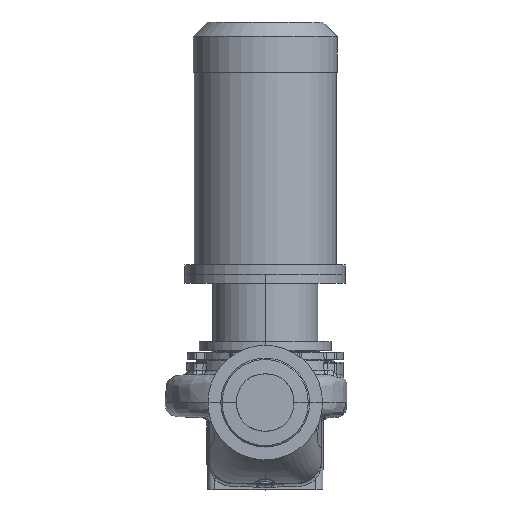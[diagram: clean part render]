
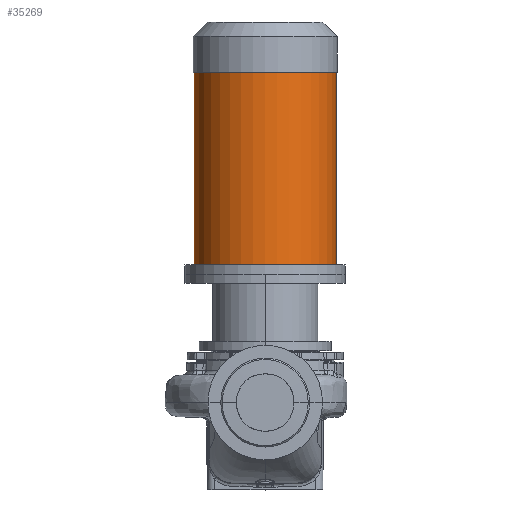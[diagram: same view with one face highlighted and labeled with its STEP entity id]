
A CAD part, top view. The second image highlights one B-rep face of the part: STEP entity #35269.
In plain terms, the highlighted cylindrical face has radius 154.5 mm (diameter 309 mm), a partial arc.
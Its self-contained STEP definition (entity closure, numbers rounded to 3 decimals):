
#1039 = CARTESIAN_POINT ( 'NONE',  ( 154.5, 720.8, 0. ) ) ;
#1347 = FACE_OUTER_BOUND ( 'NONE', #37316, .T. ) ;
#2744 = CARTESIAN_POINT ( 'NONE',  ( -154.5, 300.8, 0. ) ) ;
#3837 = VERTEX_POINT ( 'NONE', #25404 ) ;
#6369 = DIRECTION ( 'NONE',  ( 0., -1., 0. ) ) ;
#8304 = CARTESIAN_POINT ( 'NONE',  ( 154.5, 280.8, 0. ) ) ;
#9718 = DIRECTION ( 'NONE',  ( 0., -1., 0. ) ) ;
#10745 = ORIENTED_EDGE ( 'NONE', *, *, #15615, .T. ) ;
#11848 = EDGE_CURVE ( 'NONE', #43595, #41799, #28442, .T. ) ;
#14975 = VECTOR ( 'NONE', #6369, 1000. ) ;
#15615 = EDGE_CURVE ( 'NONE', #3837, #41799, #27435, .T. ) ;
#18909 = DIRECTION ( 'NONE',  ( -1., 0., 0. ) ) ;
#20067 = ORIENTED_EDGE ( 'NONE', *, *, #11848, .F. ) ;
#23610 = CARTESIAN_POINT ( 'NONE',  ( 0., 300.8, 0. ) ) ;
#24314 = CARTESIAN_POINT ( 'NONE',  ( 154.5, 300.8, 0. ) ) ;
#24753 = CYLINDRICAL_SURFACE ( 'NONE', #55922, 154.5 ) ;
#25404 = CARTESIAN_POINT ( 'NONE',  ( -154.5, 720.8, 0. ) ) ;
#27435 = LINE ( 'NONE', #48177, #14975 ) ;
#28442 = CIRCLE ( 'NONE', #56609, 154.5 ) ;
#32078 = DIRECTION ( 'NONE',  ( 0., -1., 0. ) ) ;
#32140 = EDGE_CURVE ( 'NONE', #47421, #43595, #41243, .T. ) ;
#35269 = ADVANCED_FACE ( 'NONE', ( #1347 ), #24753, .T. ) ;
#36812 = ORIENTED_EDGE ( 'NONE', *, *, #58729, .T. ) ;
#36885 = DIRECTION ( 'NONE',  ( 0., -1., 0. ) ) ;
#37316 = EDGE_LOOP ( 'NONE', ( #47051, #36812, #10745, #20067 ) ) ;
#41243 = LINE ( 'NONE', #8304, #50692 ) ;
#41580 = DIRECTION ( 'NONE',  ( -1., 0., 0. ) ) ;
#41799 = VERTEX_POINT ( 'NONE', #2744 ) ;
#43595 = VERTEX_POINT ( 'NONE', #24314 ) ;
#45624 = DIRECTION ( 'NONE',  ( 0., -1., 0. ) ) ;
#46078 = CARTESIAN_POINT ( 'NONE',  ( 0., 720.8, 0. ) ) ;
#46962 = AXIS2_PLACEMENT_3D ( 'NONE', #46078, #36885, #41580 ) ;
#47051 = ORIENTED_EDGE ( 'NONE', *, *, #32140, .F. ) ;
#47421 = VERTEX_POINT ( 'NONE', #1039 ) ;
#48177 = CARTESIAN_POINT ( 'NONE',  ( -154.5, 280.8, 0. ) ) ;
#50692 = VECTOR ( 'NONE', #45624, 1000. ) ;
#52536 = CIRCLE ( 'NONE', #46962, 154.5 ) ;
#55293 = CARTESIAN_POINT ( 'NONE',  ( 0., 280.8, 0. ) ) ;
#55491 = DIRECTION ( 'NONE',  ( -1., 0., 0. ) ) ;
#55922 = AXIS2_PLACEMENT_3D ( 'NONE', #55293, #32078, #55491 ) ;
#56609 = AXIS2_PLACEMENT_3D ( 'NONE', #23610, #9718, #18909 ) ;
#58729 = EDGE_CURVE ( 'NONE', #47421, #3837, #52536, .T. ) ;
